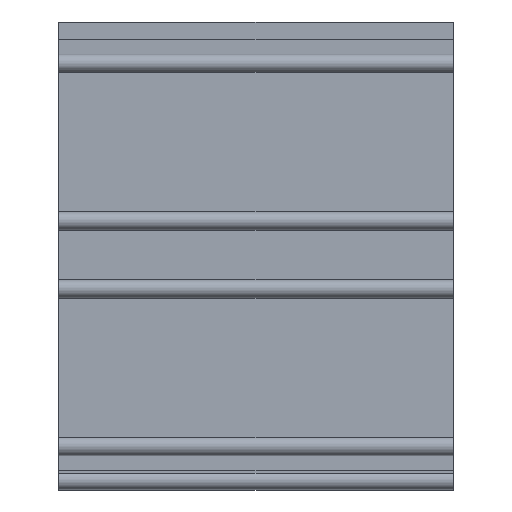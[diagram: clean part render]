
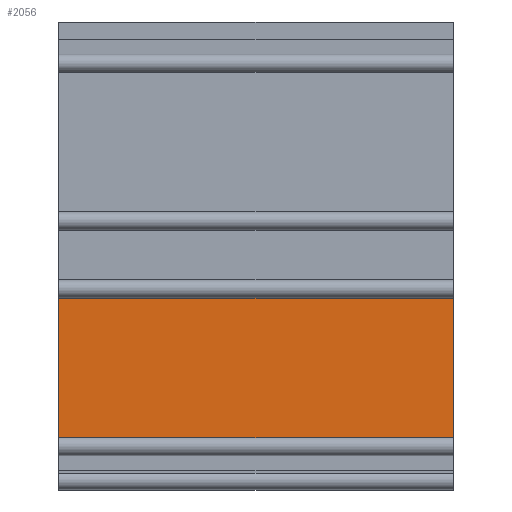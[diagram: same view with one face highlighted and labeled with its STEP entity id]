
A CAD part, top view. The second image highlights one B-rep face of the part: STEP entity #2056.
In plain terms, the highlighted planar face has unit normal (0, 0, 1).
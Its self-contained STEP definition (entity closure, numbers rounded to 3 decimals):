
#213=LINE('',#3285,#454);
#214=LINE('',#3288,#455);
#215=LINE('',#3290,#456);
#216=LINE('',#3291,#457);
#454=VECTOR('',#2672,10.);
#455=VECTOR('',#2675,10.);
#456=VECTOR('',#2676,10.);
#457=VECTOR('',#2677,10.);
#596=PLANE('',#2216);
#694=FACE_OUTER_BOUND('',#798,.T.);
#798=EDGE_LOOP('',(#1690,#1691,#1692,#1693));
#1046=VERTEX_POINT('',#3281);
#1047=VERTEX_POINT('',#3283);
#1048=VERTEX_POINT('',#3287);
#1049=VERTEX_POINT('',#3289);
#1317=EDGE_CURVE('',#1046,#1047,#213,.T.);
#1318=EDGE_CURVE('',#1046,#1048,#214,.T.);
#1319=EDGE_CURVE('',#1049,#1047,#215,.T.);
#1320=EDGE_CURVE('',#1048,#1049,#216,.T.);
#1690=ORIENTED_EDGE('',*,*,#1318,.F.);
#1691=ORIENTED_EDGE('',*,*,#1317,.T.);
#1692=ORIENTED_EDGE('',*,*,#1319,.F.);
#1693=ORIENTED_EDGE('',*,*,#1320,.F.);
#2056=ADVANCED_FACE('',(#694),#596,.T.);
#2216=AXIS2_PLACEMENT_3D('',#3286,#2673,#2674);
#2672=DIRECTION('',(1.,0.,0.));
#2673=DIRECTION('center_axis',(0.,0.,1.));
#2674=DIRECTION('ref_axis',(0.,-1.,0.));
#2675=DIRECTION('',(0.,1.,0.));
#2676=DIRECTION('',(0.,-1.,0.));
#2677=DIRECTION('',(1.,0.,0.));
#3281=CARTESIAN_POINT('',(0.,233.25,37.5));
#3283=CARTESIAN_POINT('',(90.,233.25,37.5));
#3285=CARTESIAN_POINT('',(0.,233.25,37.5));
#3286=CARTESIAN_POINT('Origin',(0.,266.75,37.5));
#3287=CARTESIAN_POINT('',(0.,266.75,37.5));
#3288=CARTESIAN_POINT('',(0.,233.25,37.5));
#3289=CARTESIAN_POINT('',(90.,266.75,37.5));
#3290=CARTESIAN_POINT('',(90.,233.25,37.5));
#3291=CARTESIAN_POINT('',(0.,266.75,37.5));
